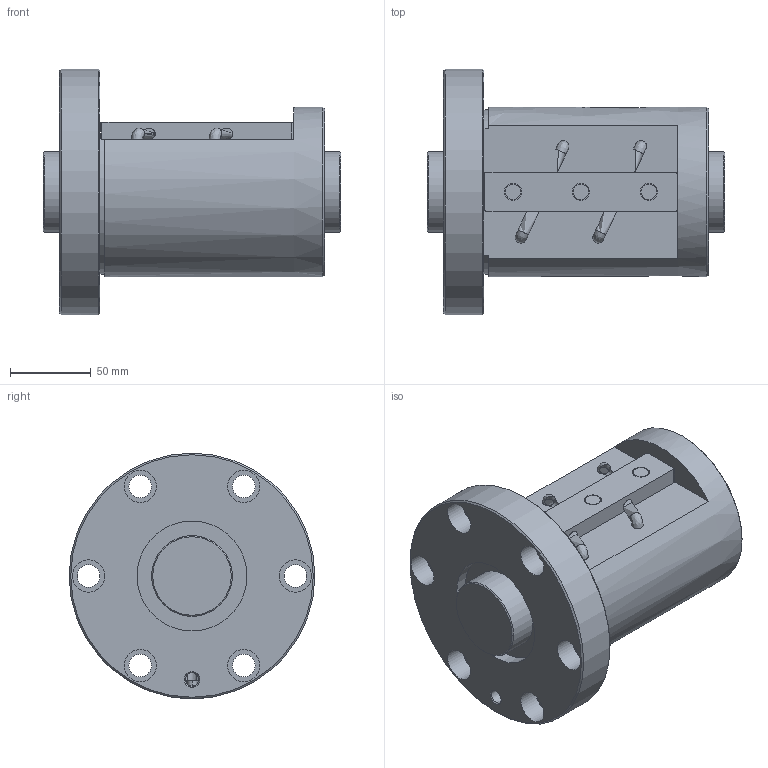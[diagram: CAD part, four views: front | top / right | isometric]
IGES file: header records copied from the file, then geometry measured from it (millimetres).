
Start section: Data from Parasolid IGES Translator 26.0.171, Copyright(c) 2006 Siemens PLM Software. All Rights Reserved.
Global section: file name: BNF5016V-5RRG1+184LC0_000_rev.igs; native system: By Siemens PLM Incorporated; preprocessor: XPlus GENERIC/IGES 26.0.171; author: Noname; organization: Noname; date: 20240806.094944; units: millimetre
Bounding box: 184 x 152 x 152 mm (x, y, z)
Surface area: 163025.4 mm2 (no closed solid volume)
Topology: 0 solids, 0 shells, 80 faces, 352 edges, 314 vertices
Faces by surface type: revolution 51, extrusion 29
